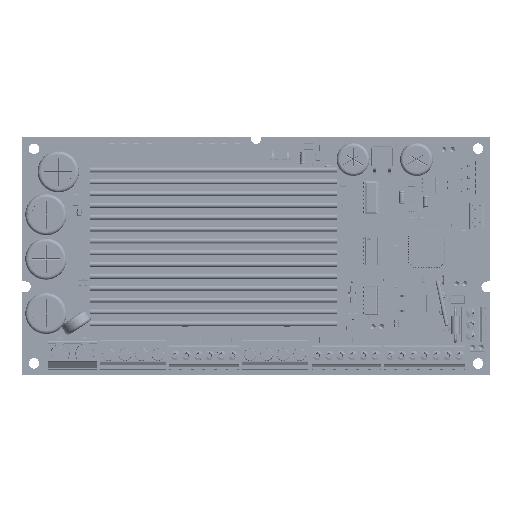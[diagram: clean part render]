
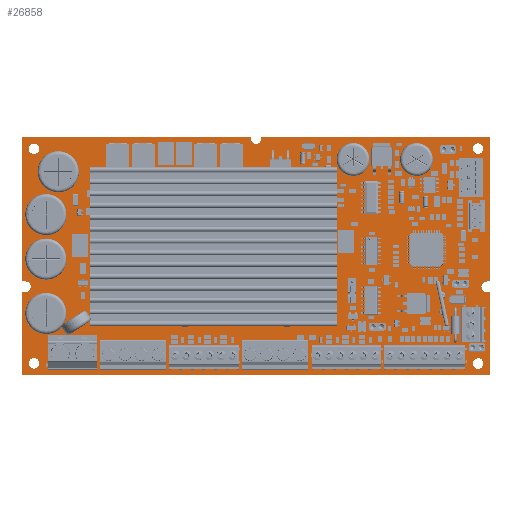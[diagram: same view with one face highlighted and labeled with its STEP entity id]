
A CAD part, top view. The second image highlights one B-rep face of the part: STEP entity #26858.
In plain terms, the highlighted planar face has unit normal (0, 0, 1).
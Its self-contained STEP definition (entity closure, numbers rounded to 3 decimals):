
#26858=ADVANCED_FACE('',(#53462,#53463,#53464,#53465,#53466,#53467,#53468,#53469,#53470,#53471,#53472),#53473,.T.);
#53462=FACE_BOUND('',#106814,.T.);
#53463=FACE_BOUND('',#106815,.T.);
#53464=FACE_BOUND('',#106816,.T.);
#53465=FACE_BOUND('',#106817,.T.);
#53466=FACE_BOUND('',#106818,.T.);
#53467=FACE_BOUND('',#106819,.T.);
#53468=FACE_BOUND('',#106820,.T.);
#53469=FACE_BOUND('',#106821,.T.);
#53470=FACE_BOUND('',#106822,.T.);
#53471=FACE_BOUND('',#106823,.T.);
#53472=FACE_OUTER_BOUND('',#106824,.T.);
#53473=PLANE('',#106825);
#106814=EDGE_LOOP('',(#191034));
#106815=EDGE_LOOP('',(#191035));
#106816=EDGE_LOOP('',(#191036));
#106817=EDGE_LOOP('',(#191037));
#106818=EDGE_LOOP('',(#191038));
#106819=EDGE_LOOP('',(#191039));
#106820=EDGE_LOOP('',(#191040));
#106821=EDGE_LOOP('',(#191041));
#106822=EDGE_LOOP('',(#191042));
#106823=EDGE_LOOP('',(#191043));
#106824=EDGE_LOOP('',(#191044,#191045,#191046,#191047,#191048,#191049,#191050,#191051,#191052,#191053,#191054,#191055,#191056,#191057,#191058,#191059));
#106825=AXIS2_PLACEMENT_3D('',#191060,#191061,#191062);
#191034=ORIENTED_EDGE('',*,*,#235262,.T.);
#191035=ORIENTED_EDGE('',*,*,#235265,.T.);
#191036=ORIENTED_EDGE('',*,*,#235268,.T.);
#191037=ORIENTED_EDGE('',*,*,#235271,.T.);
#191038=ORIENTED_EDGE('',*,*,#235274,.T.);
#191039=ORIENTED_EDGE('',*,*,#235277,.T.);
#191040=ORIENTED_EDGE('',*,*,#235280,.T.);
#191041=ORIENTED_EDGE('',*,*,#235283,.T.);
#191042=ORIENTED_EDGE('',*,*,#235286,.T.);
#191043=ORIENTED_EDGE('',*,*,#235289,.T.);
#191044=ORIENTED_EDGE('',*,*,#235292,.T.);
#191045=ORIENTED_EDGE('',*,*,#235293,.T.);
#191046=ORIENTED_EDGE('',*,*,#235294,.T.);
#191047=ORIENTED_EDGE('',*,*,#235295,.T.);
#191048=ORIENTED_EDGE('',*,*,#235296,.T.);
#191049=ORIENTED_EDGE('',*,*,#235297,.T.);
#191050=ORIENTED_EDGE('',*,*,#235298,.T.);
#191051=ORIENTED_EDGE('',*,*,#235299,.T.);
#191052=ORIENTED_EDGE('',*,*,#235300,.T.);
#191053=ORIENTED_EDGE('',*,*,#235301,.T.);
#191054=ORIENTED_EDGE('',*,*,#235302,.T.);
#191055=ORIENTED_EDGE('',*,*,#235303,.T.);
#191056=ORIENTED_EDGE('',*,*,#235304,.T.);
#191057=ORIENTED_EDGE('',*,*,#235305,.T.);
#191058=ORIENTED_EDGE('',*,*,#235306,.T.);
#191059=ORIENTED_EDGE('',*,*,#235307,.T.);
#191060=CARTESIAN_POINT('',(71.004,36.288,1.6));
#191061=DIRECTION('',(0.0,0.0,1.0));
#191062=DIRECTION('',(1.0,0.0,0.0));
#235262=EDGE_CURVE('',#277505,#277505,#277506,.T.);
#235265=EDGE_CURVE('',#277510,#277510,#277511,.T.);
#235268=EDGE_CURVE('',#277515,#277515,#277516,.T.);
#235271=EDGE_CURVE('',#277520,#277520,#277521,.T.);
#235274=EDGE_CURVE('',#277525,#277525,#277526,.T.);
#235277=EDGE_CURVE('',#277530,#277530,#277531,.T.);
#235280=EDGE_CURVE('',#277535,#277535,#277536,.T.);
#235283=EDGE_CURVE('',#277540,#277540,#277541,.T.);
#235286=EDGE_CURVE('',#277545,#277545,#277546,.T.);
#235289=EDGE_CURVE('',#277550,#277550,#277551,.T.);
#235292=EDGE_CURVE('',#277555,#277556,#277557,.T.);
#235293=EDGE_CURVE('',#277556,#277558,#277559,.T.);
#235294=EDGE_CURVE('',#277558,#277560,#277561,.T.);
#235295=EDGE_CURVE('',#277560,#277562,#277563,.T.);
#235296=EDGE_CURVE('',#277562,#277564,#277565,.T.);
#235297=EDGE_CURVE('',#277564,#277566,#277567,.T.);
#235298=EDGE_CURVE('',#277566,#277568,#277569,.T.);
#235299=EDGE_CURVE('',#277568,#277570,#277571,.T.);
#235300=EDGE_CURVE('',#277570,#277572,#277573,.T.);
#235301=EDGE_CURVE('',#277572,#277574,#277575,.T.);
#235302=EDGE_CURVE('',#277574,#277576,#277577,.T.);
#235303=EDGE_CURVE('',#277576,#277578,#277579,.T.);
#235304=EDGE_CURVE('',#277578,#277580,#277581,.T.);
#235305=EDGE_CURVE('',#277580,#277582,#277583,.T.);
#235306=EDGE_CURVE('',#277582,#277584,#277585,.T.);
#235307=EDGE_CURVE('',#277584,#277555,#277586,.T.);
#277505=VERTEX_POINT('',#346604);
#277506=CIRCLE('',#346605,1.6);
#277510=VERTEX_POINT('',#346609);
#277511=CIRCLE('',#346610,1.6);
#277515=VERTEX_POINT('',#346614);
#277516=CIRCLE('',#346615,1.6);
#277520=VERTEX_POINT('',#346619);
#277521=CIRCLE('',#346620,1.6);
#277525=VERTEX_POINT('',#346624);
#277526=CIRCLE('',#346625,1.6);
#277530=VERTEX_POINT('',#346629);
#277531=CIRCLE('',#346630,1.6);
#277535=VERTEX_POINT('',#346634);
#277536=CIRCLE('',#346635,1.6);
#277540=VERTEX_POINT('',#346639);
#277541=CIRCLE('',#346640,1.6);
#277545=VERTEX_POINT('',#346644);
#277546=CIRCLE('',#346645,1.6);
#277550=VERTEX_POINT('',#346649);
#277551=CIRCLE('',#346650,1.6);
#277555=VERTEX_POINT('',#346654);
#277556=VERTEX_POINT('',#346655);
#277557=LINE('',#346656,#346657);
#277558=VERTEX_POINT('',#346658);
#277559=LINE('',#346659,#346660);
#277560=VERTEX_POINT('',#346661);
#277561=LINE('',#346662,#346663);
#277562=VERTEX_POINT('',#346664);
#277563=CIRCLE('',#346665,1.605);
#277564=VERTEX_POINT('',#346666);
#277565=LINE('',#346667,#346668);
#277566=VERTEX_POINT('',#346669);
#277567=LINE('',#346670,#346671);
#277568=VERTEX_POINT('',#346672);
#277569=LINE('',#346673,#346674);
#277570=VERTEX_POINT('',#346675);
#277571=LINE('',#346676,#346677);
#277572=VERTEX_POINT('',#346678);
#277573=CIRCLE('',#346679,1.581);
#277574=VERTEX_POINT('',#346680);
#277575=LINE('',#346681,#346682);
#277576=VERTEX_POINT('',#346683);
#277577=LINE('',#346684,#346685);
#277578=VERTEX_POINT('',#346686);
#277579=LINE('',#346687,#346688);
#277580=VERTEX_POINT('',#346689);
#277581=LINE('',#346690,#346691);
#277582=VERTEX_POINT('',#346692);
#277583=CIRCLE('',#346693,1.6);
#277584=VERTEX_POINT('',#346694);
#277585=LINE('',#346695,#346696);
#277586=LINE('',#346697,#346698);
#346604=CARTESIAN_POINT('',(71.9,18.27,1.6));
#346605=AXIS2_PLACEMENT_3D('',#406355,#406356,#406357);
#346609=CARTESIAN_POINT('',(37.79,18.27,1.6));
#346610=AXIS2_PLACEMENT_3D('',#406361,#406362,#406363);
#346614=CARTESIAN_POINT('',(37.79,36.57,1.6));
#346615=AXIS2_PLACEMENT_3D('',#406367,#406368,#406369);
#346619=CARTESIAN_POINT('',(71.9,36.57,1.6));
#346620=AXIS2_PLACEMENT_3D('',#406373,#406374,#406375);
#346624=CARTESIAN_POINT('',(71.9,54.87,1.6));
#346625=AXIS2_PLACEMENT_3D('',#406379,#406380,#406381);
#346629=CARTESIAN_POINT('',(37.79,54.87,1.6));
#346630=AXIS2_PLACEMENT_3D('',#406385,#406386,#406387);
#346634=CARTESIAN_POINT('',(136.823,68.833,1.6));
#346635=AXIS2_PLACEMENT_3D('',#406391,#406392,#406393);
#346639=CARTESIAN_POINT('',(136.863,3.583,1.6));
#346640=AXIS2_PLACEMENT_3D('',#406397,#406398,#406399);
#346644=CARTESIAN_POINT('',(2.05,3.65,1.6));
#346645=AXIS2_PLACEMENT_3D('',#406403,#406404,#406405);
#346649=CARTESIAN_POINT('',(2.05,68.75,1.6));
#346650=AXIS2_PLACEMENT_3D('',#406409,#406410,#406411);
#346654=CARTESIAN_POINT('',(0.0,0.0,1.6));
#346655=CARTESIAN_POINT('',(142.05,0.,1.6));
#346656=CARTESIAN_POINT('',(71.025,0.,1.6));
#346657=VECTOR('',#406415,1.0);
#346658=CARTESIAN_POINT('',(142.06,25.28,1.6));
#346659=CARTESIAN_POINT('',(142.055,12.64,1.6));
#346660=VECTOR('',#406416,1.0);
#346661=CARTESIAN_POINT('',(141.09,25.28,1.6));
#346662=CARTESIAN_POINT('',(141.575,25.28,1.6));
#346663=VECTOR('',#406417,1.0);
#346664=CARTESIAN_POINT('',(141.09,28.49,1.6));
#346665=AXIS2_PLACEMENT_3D('',#406418,#406419,#406420);
#346666=CARTESIAN_POINT('',(142.05,28.51,1.6));
#346667=CARTESIAN_POINT('',(141.57,28.5,1.6));
#346668=VECTOR('',#406421,1.0);
#346669=CARTESIAN_POINT('',(142.05,72.45,1.6));
#346670=CARTESIAN_POINT('',(142.05,50.48,1.6));
#346671=VECTOR('',#406422,1.0);
#346672=CARTESIAN_POINT('',(72.64,72.45,1.6));
#346673=CARTESIAN_POINT('',(107.345,72.45,1.6));
#346674=VECTOR('',#406423,1.0);
#346675=CARTESIAN_POINT('',(72.64,71.88,1.6));
#346676=CARTESIAN_POINT('',(72.64,72.165,1.6));
#346677=VECTOR('',#406424,1.0);
#346678=CARTESIAN_POINT('',(69.477,71.88,1.6));
#346679=AXIS2_PLACEMENT_3D('',#406425,#406426,#406427);
#346680=CARTESIAN_POINT('',(69.462,72.45,1.6));
#346681=CARTESIAN_POINT('',(69.47,72.165,1.6));
#346682=VECTOR('',#406428,1.0);
#346683=CARTESIAN_POINT('',(0.,72.45,1.6));
#346684=CARTESIAN_POINT('',(34.731,72.45,1.6));
#346685=VECTOR('',#406429,1.0);
#346686=CARTESIAN_POINT('',(0.,28.49,1.6));
#346687=CARTESIAN_POINT('',(0.,50.47,1.6));
#346688=VECTOR('',#406430,1.0);
#346689=CARTESIAN_POINT('',(1.03,28.49,1.6));
#346690=CARTESIAN_POINT('',(0.515,28.49,1.6));
#346691=VECTOR('',#406431,1.0);
#346692=CARTESIAN_POINT('',(1.03,25.29,1.6));
#346693=AXIS2_PLACEMENT_3D('',#406432,#406433,#406434);
#346694=CARTESIAN_POINT('',(0.,25.29,1.6));
#346695=CARTESIAN_POINT('',(0.515,25.29,1.6));
#346696=VECTOR('',#406435,1.0);
#346697=CARTESIAN_POINT('',(0.,12.645,1.6));
#346698=VECTOR('',#406436,1.0);
#406355=CARTESIAN_POINT('',(73.5,18.27,1.6));
#406356=DIRECTION('',(-0.0,0.0,-1.0));
#406357=DIRECTION('',(-1.0,0.0,0.0));
#406361=CARTESIAN_POINT('',(39.39,18.27,1.6));
#406362=DIRECTION('',(-0.0,0.0,-1.0));
#406363=DIRECTION('',(-1.0,0.0,0.0));
#406367=CARTESIAN_POINT('',(39.39,36.57,1.6));
#406368=DIRECTION('',(-0.0,0.0,-1.0));
#406369=DIRECTION('',(-1.0,0.0,0.0));
#406373=CARTESIAN_POINT('',(73.5,36.57,1.6));
#406374=DIRECTION('',(-0.0,0.0,-1.0));
#406375=DIRECTION('',(-1.0,0.0,0.0));
#406379=CARTESIAN_POINT('',(73.5,54.87,1.6));
#406380=DIRECTION('',(-0.0,0.0,-1.0));
#406381=DIRECTION('',(-1.0,0.0,0.0));
#406385=CARTESIAN_POINT('',(39.39,54.87,1.6));
#406386=DIRECTION('',(-0.0,0.0,-1.0));
#406387=DIRECTION('',(-1.0,0.0,0.0));
#406391=CARTESIAN_POINT('',(138.423,68.833,1.6));
#406392=DIRECTION('',(-0.0,0.0,-1.0));
#406393=DIRECTION('',(-1.0,0.0,0.0));
#406397=CARTESIAN_POINT('',(138.463,3.583,1.6));
#406398=DIRECTION('',(-0.0,0.0,-1.0));
#406399=DIRECTION('',(-1.0,0.0,0.0));
#406403=CARTESIAN_POINT('',(3.65,3.65,1.6));
#406404=DIRECTION('',(-0.0,0.0,-1.0));
#406405=DIRECTION('',(-1.0,0.0,0.0));
#406409=CARTESIAN_POINT('',(3.65,68.75,1.6));
#406410=DIRECTION('',(-0.0,0.0,-1.0));
#406411=DIRECTION('',(-1.0,0.0,0.0));
#406415=DIRECTION('',(1.,0.,0.0));
#406416=DIRECTION('',(0.,1.,0.0));
#406417=DIRECTION('',(-1.0,0.0,0.0));
#406418=CARTESIAN_POINT('',(141.073,26.885,1.6));
#406419=DIRECTION('',(0.0,0.0,-1.0));
#406420=DIRECTION('',(0.01,-1.,0.0));
#406421=DIRECTION('',(1.,0.021,0.0));
#406422=DIRECTION('',(0.,1.,0.0));
#406423=DIRECTION('',(-1.,0.,0.0));
#406424=DIRECTION('',(0.0,-1.0,0.0));
#406425=CARTESIAN_POINT('',(71.059,71.867,1.6));
#406426=DIRECTION('',(0.0,0.0,-1.0));
#406427=DIRECTION('',(1.,0.008,0.0));
#406428=DIRECTION('',(-0.026,1.,0.0));
#406429=DIRECTION('',(-1.,0.,0.0));
#406430=DIRECTION('',(0.,-1.,0.0));
#406431=DIRECTION('',(1.0,0.,0.0));
#406432=CARTESIAN_POINT('',(1.043,26.89,1.6));
#406433=DIRECTION('',(0.0,0.0,-1.0));
#406434=DIRECTION('',(-0.008,1.,0.0));
#406435=DIRECTION('',(-1.0,0.,0.0));
#406436=DIRECTION('',(0.,-1.,0.0));
